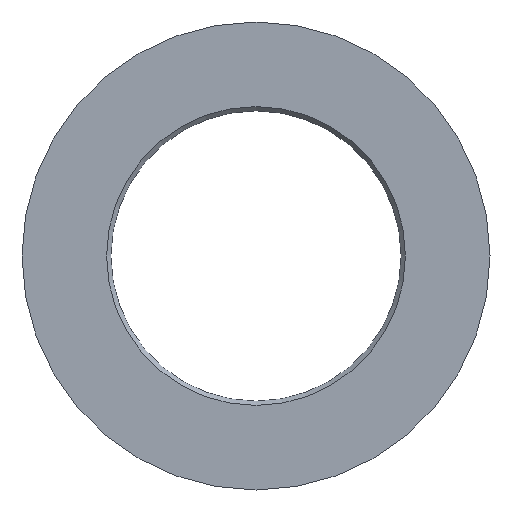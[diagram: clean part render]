
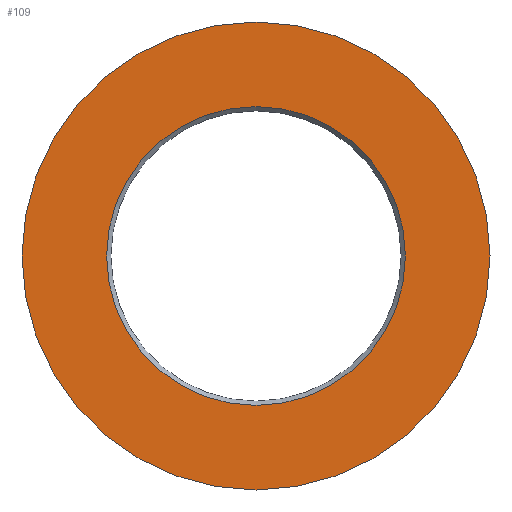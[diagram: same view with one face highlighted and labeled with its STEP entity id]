
A CAD part, front view. The second image highlights one B-rep face of the part: STEP entity #109.
In plain terms, the highlighted planar face has unit normal (0, -1, 0).
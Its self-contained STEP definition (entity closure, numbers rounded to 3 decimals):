
#16=FACE_BOUND('',#34,.T.);
#18=PLANE('',#144);
#25=FACE_OUTER_BOUND('',#33,.T.);
#33=EDGE_LOOP('',(#90));
#34=EDGE_LOOP('',(#91));
#51=CIRCLE('',#143,34.55);
#52=CIRCLE('',#145,54.1);
#59=VERTEX_POINT('',#202);
#60=VERTEX_POINT('',#206);
#70=EDGE_CURVE('',#59,#59,#51,.T.);
#71=EDGE_CURVE('',#60,#60,#52,.T.);
#90=ORIENTED_EDGE('',*,*,#71,.F.);
#91=ORIENTED_EDGE('',*,*,#70,.F.);
#109=ADVANCED_FACE('',(#25,#16),#18,.F.);
#143=AXIS2_PLACEMENT_3D('',#204,#171,#172);
#144=AXIS2_PLACEMENT_3D('',#205,#173,#174);
#145=AXIS2_PLACEMENT_3D('',#207,#175,#176);
#171=DIRECTION('center_axis',(0.,-1.,0.));
#172=DIRECTION('ref_axis',(1.,0.,0.));
#173=DIRECTION('center_axis',(0.,1.,0.));
#174=DIRECTION('ref_axis',(0.,0.,1.));
#175=DIRECTION('center_axis',(0.,1.,0.));
#176=DIRECTION('ref_axis',(-1.,0.,0.));
#202=CARTESIAN_POINT('',(-34.55,0.,0.));
#204=CARTESIAN_POINT('Origin',(0.,0.,0.));
#205=CARTESIAN_POINT('Origin',(0.,0.,0.));
#206=CARTESIAN_POINT('',(-54.1,0.,0.));
#207=CARTESIAN_POINT('Origin',(0.,0.,0.));
